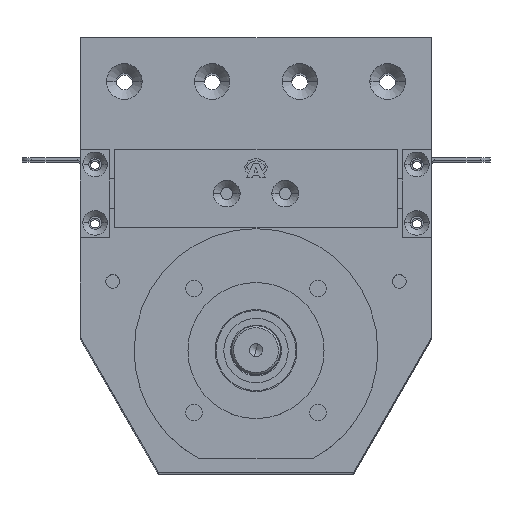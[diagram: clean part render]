
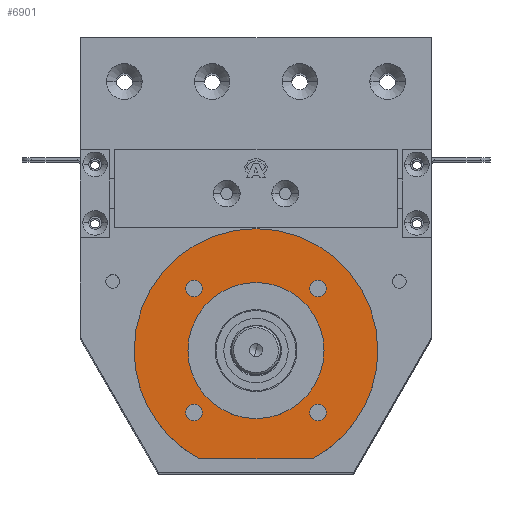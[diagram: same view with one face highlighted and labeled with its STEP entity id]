
A CAD part, top view. The second image highlights one B-rep face of the part: STEP entity #6901.
In plain terms, the highlighted planar face has unit normal (0, 0, 1).
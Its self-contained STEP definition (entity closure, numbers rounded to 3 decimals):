
#23 = DIRECTION ( 'NONE',  ( 0., 0., 1. ) ) ;
#345 = LINE ( 'NONE', #17359, #27157 ) ;
#474 = VERTEX_POINT ( 'NONE', #6062 ) ;
#958 = CARTESIAN_POINT ( 'NONE',  ( -31.82, 30.68, 293.5 ) ) ;
#979 = CIRCLE ( 'NONE', #10503, 4.25 ) ;
#980 = CIRCLE ( 'NONE', #15457, 62.5 ) ;
#1205 = ORIENTED_EDGE ( 'NONE', *, *, #30647, .T. ) ;
#1966 = VERTEX_POINT ( 'NONE', #22270 ) ;
#2015 = ORIENTED_EDGE ( 'NONE', *, *, #9141, .T. ) ;
#2455 = VERTEX_POINT ( 'NONE', #27460 ) ;
#2508 = EDGE_CURVE ( 'NONE', #21343, #27372, #979, .T. ) ;
#2647 = CARTESIAN_POINT ( 'NONE',  ( 36.07, 30.68, 293.5 ) ) ;
#2809 = DIRECTION ( 'NONE',  ( 1., 0., 0. ) ) ;
#2929 = FACE_BOUND ( 'NONE', #6530, .T. ) ;
#2933 = DIRECTION ( 'NONE',  ( 0., 0., 1. ) ) ;
#3045 = CARTESIAN_POINT ( 'NONE',  ( 0., 62.5, 293.5 ) ) ;
#3551 = DIRECTION ( 'NONE',  ( -1., 0., 0. ) ) ;
#3748 = AXIS2_PLACEMENT_3D ( 'NONE', #5235, #5099, #5201 ) ;
#4116 = EDGE_CURVE ( 'NONE', #33236, #25754, #26631, .T. ) ;
#4265 = ORIENTED_EDGE ( 'NONE', *, *, #8864, .T. ) ;
#5099 = DIRECTION ( 'NONE',  ( 0., 0., 1. ) ) ;
#5201 = DIRECTION ( 'NONE',  ( 1., 0., 0. ) ) ;
#5235 = CARTESIAN_POINT ( 'NONE',  ( 0., 62.5, 293.5 ) ) ;
#5465 = VERTEX_POINT ( 'NONE', #10185 ) ;
#6062 = CARTESIAN_POINT ( 'NONE',  ( 27.57, 94.32, 293.5 ) ) ;
#6170 = CARTESIAN_POINT ( 'NONE',  ( -31.82, 30.68, 293.5 ) ) ;
#6283 = EDGE_CURVE ( 'NONE', #25754, #33236, #6574, .T. ) ;
#6530 = EDGE_LOOP ( 'NONE', ( #1205, #28160 ) ) ;
#6574 = CIRCLE ( 'NONE', #6648, 34.9 ) ;
#6648 = AXIS2_PLACEMENT_3D ( 'NONE', #23191, #23157, #23082 ) ;
#6658 = VERTEX_POINT ( 'NONE', #7573 ) ;
#6901 = ADVANCED_FACE ( 'NONE', ( #9873, #29746, #23693, #2929, #22885, #15972 ), #25669, .F. ) ;
#7078 = CARTESIAN_POINT ( 'NONE',  ( 31.82, 30.68, 293.5 ) ) ;
#7490 = CARTESIAN_POINT ( 'NONE',  ( 28.74, 7., 293.5 ) ) ;
#7573 = CARTESIAN_POINT ( 'NONE',  ( 27.57, 30.68, 293.5 ) ) ;
#7595 = AXIS2_PLACEMENT_3D ( 'NONE', #3045, #2933, #2809 ) ;
#8055 = DIRECTION ( 'NONE',  ( -1., 0., 0. ) ) ;
#8173 = DIRECTION ( 'NONE',  ( 0., 0., -1. ) ) ;
#8290 = CARTESIAN_POINT ( 'NONE',  ( 31.82, 94.32, 293.5 ) ) ;
#8555 = EDGE_LOOP ( 'NONE', ( #2015, #4265 ) ) ;
#8676 = VERTEX_POINT ( 'NONE', #8959 ) ;
#8717 = DIRECTION ( 'NONE',  ( 0., 0., -1. ) ) ;
#8804 = DIRECTION ( 'NONE',  ( -1., 0., 0. ) ) ;
#8864 = EDGE_CURVE ( 'NONE', #2455, #474, #27985, .T. ) ;
#8959 = CARTESIAN_POINT ( 'NONE',  ( -27.57, 30.68, 293.5 ) ) ;
#9127 = EDGE_CURVE ( 'NONE', #25789, #5465, #32010, .T. ) ;
#9141 = EDGE_CURVE ( 'NONE', #474, #2455, #10511, .T. ) ;
#9223 = ORIENTED_EDGE ( 'NONE', *, *, #22154, .T. ) ;
#9706 = DIRECTION ( 'NONE',  ( -1., 0., 0. ) ) ;
#9873 = FACE_BOUND ( 'NONE', #25435, .T. ) ;
#10185 = CARTESIAN_POINT ( 'NONE',  ( 62.5, 62.5, 293.5 ) ) ;
#10234 = DIRECTION ( 'NONE',  ( 0., 0., -1. ) ) ;
#10431 = EDGE_CURVE ( 'NONE', #25789, #30893, #345, .T. ) ;
#10503 = AXIS2_PLACEMENT_3D ( 'NONE', #26626, #26557, #26584 ) ;
#10511 = CIRCLE ( 'NONE', #19787, 4.25 ) ;
#10600 = ORIENTED_EDGE ( 'NONE', *, *, #23085, .T. ) ;
#10927 = DIRECTION ( 'NONE',  ( 0., 0., -1. ) ) ;
#11771 = EDGE_CURVE ( 'NONE', #1966, #30893, #31970, .T. ) ;
#12031 = AXIS2_PLACEMENT_3D ( 'NONE', #7078, #25260, #9706 ) ;
#12049 = DIRECTION ( 'NONE',  ( 1., 0., 0. ) ) ;
#12078 = DIRECTION ( 'NONE',  ( 0., 0., 1. ) ) ;
#12089 = CARTESIAN_POINT ( 'NONE',  ( 0., 62.5, 293.5 ) ) ;
#12120 = CIRCLE ( 'NONE', #12031, 4.25 ) ;
#12482 = VERTEX_POINT ( 'NONE', #2647 ) ;
#12937 = AXIS2_PLACEMENT_3D ( 'NONE', #24292, #8717, #26861 ) ;
#13712 = EDGE_CURVE ( 'NONE', #5465, #1966, #980, .T. ) ;
#14576 = ORIENTED_EDGE ( 'NONE', *, *, #4116, .F. ) ;
#14833 = CARTESIAN_POINT ( 'NONE',  ( -36.07, 94.32, 293.5 ) ) ;
#15280 = CARTESIAN_POINT ( 'NONE',  ( 31.82, 94.32, 293.5 ) ) ;
#15457 = AXIS2_PLACEMENT_3D ( 'NONE', #12089, #12078, #12049 ) ;
#15972 = FACE_OUTER_BOUND ( 'NONE', #19357, .T. ) ;
#16431 = EDGE_LOOP ( 'NONE', ( #10600, #9223 ) ) ;
#17200 = DIRECTION ( 'NONE',  ( -1., 0., 0. ) ) ;
#17359 = CARTESIAN_POINT ( 'NONE',  ( 28.74, 7., 293.5 ) ) ;
#19039 = CARTESIAN_POINT ( 'NONE',  ( -27.57, 94.32, 293.5 ) ) ;
#19119 = DIRECTION ( 'NONE',  ( 0., 0., -1. ) ) ;
#19138 = ORIENTED_EDGE ( 'NONE', *, *, #6283, .F. ) ;
#19357 = EDGE_LOOP ( 'NONE', ( #19615, #33311, #30892, #31866 ) ) ;
#19615 = ORIENTED_EDGE ( 'NONE', *, *, #9127, .T. ) ;
#19787 = AXIS2_PLACEMENT_3D ( 'NONE', #15280, #10234, #33456 ) ;
#20595 = AXIS2_PLACEMENT_3D ( 'NONE', #33398, #23, #32973 ) ;
#20640 = CIRCLE ( 'NONE', #25975, 4.25 ) ;
#21343 = VERTEX_POINT ( 'NONE', #19039 ) ;
#21506 = CIRCLE ( 'NONE', #32470, 4.25 ) ;
#22082 = AXIS2_PLACEMENT_3D ( 'NONE', #958, #19119, #3551 ) ;
#22154 = EDGE_CURVE ( 'NONE', #12482, #6658, #12120, .T. ) ;
#22270 = CARTESIAN_POINT ( 'NONE',  ( -62.5, 62.5, 293.5 ) ) ;
#22393 = CARTESIAN_POINT ( 'NONE',  ( 34.9, 62.5, 293.5 ) ) ;
#22885 = FACE_BOUND ( 'NONE', #31655, .T. ) ;
#23082 = DIRECTION ( 'NONE',  ( 1., 0., 0. ) ) ;
#23085 = EDGE_CURVE ( 'NONE', #6658, #12482, #30302, .T. ) ;
#23157 = DIRECTION ( 'NONE',  ( 0., 0., 1. ) ) ;
#23191 = CARTESIAN_POINT ( 'NONE',  ( 0., 62.5, 293.5 ) ) ;
#23535 = EDGE_CURVE ( 'NONE', #32950, #8676, #31086, .T. ) ;
#23693 = FACE_BOUND ( 'NONE', #8555, .T. ) ;
#23754 = DIRECTION ( 'NONE',  ( -1., 0., 0. ) ) ;
#23938 = AXIS2_PLACEMENT_3D ( 'NONE', #8290, #8173, #8055 ) ;
#24292 = CARTESIAN_POINT ( 'NONE',  ( 31.82, 30.68, 293.5 ) ) ;
#24376 = DIRECTION ( 'NONE',  ( 0., 0., -1. ) ) ;
#25004 = CARTESIAN_POINT ( 'NONE',  ( -28.74, 7., 293.5 ) ) ;
#25260 = DIRECTION ( 'NONE',  ( 0., 0., -1. ) ) ;
#25303 = DIRECTION ( 'NONE',  ( 0., 0., -1. ) ) ;
#25435 = EDGE_LOOP ( 'NONE', ( #28545, #30747 ) ) ;
#25669 = PLANE ( 'NONE',  #27971 ) ;
#25754 = VERTEX_POINT ( 'NONE', #28145 ) ;
#25789 = VERTEX_POINT ( 'NONE', #7490 ) ;
#25975 = AXIS2_PLACEMENT_3D ( 'NONE', #26468, #10927, #29067 ) ;
#26468 = CARTESIAN_POINT ( 'NONE',  ( -31.82, 94.32, 293.5 ) ) ;
#26557 = DIRECTION ( 'NONE',  ( 0., 0., -1. ) ) ;
#26584 = DIRECTION ( 'NONE',  ( -1., 0., 0. ) ) ;
#26626 = CARTESIAN_POINT ( 'NONE',  ( -31.82, 94.32, 293.5 ) ) ;
#26631 = CIRCLE ( 'NONE', #3748, 34.9 ) ;
#26861 = DIRECTION ( 'NONE',  ( -1., 0., 0. ) ) ;
#26889 = CARTESIAN_POINT ( 'NONE',  ( 0., 125., 293.5 ) ) ;
#27157 = VECTOR ( 'NONE', #17200, 1000. ) ;
#27372 = VERTEX_POINT ( 'NONE', #14833 ) ;
#27460 = CARTESIAN_POINT ( 'NONE',  ( 36.07, 94.32, 293.5 ) ) ;
#27971 = AXIS2_PLACEMENT_3D ( 'NONE', #26889, #25303, #23754 ) ;
#27985 = CIRCLE ( 'NONE', #23938, 4.25 ) ;
#28145 = CARTESIAN_POINT ( 'NONE',  ( -34.9, 62.5, 293.5 ) ) ;
#28160 = ORIENTED_EDGE ( 'NONE', *, *, #2508, .T. ) ;
#28545 = ORIENTED_EDGE ( 'NONE', *, *, #23535, .T. ) ;
#28730 = CARTESIAN_POINT ( 'NONE',  ( -36.07, 30.68, 293.5 ) ) ;
#29067 = DIRECTION ( 'NONE',  ( -1., 0., 0. ) ) ;
#29746 = FACE_BOUND ( 'NONE', #16431, .T. ) ;
#30167 = EDGE_CURVE ( 'NONE', #8676, #32950, #21506, .T. ) ;
#30302 = CIRCLE ( 'NONE', #12937, 4.25 ) ;
#30647 = EDGE_CURVE ( 'NONE', #27372, #21343, #20640, .T. ) ;
#30747 = ORIENTED_EDGE ( 'NONE', *, *, #30167, .T. ) ;
#30892 = ORIENTED_EDGE ( 'NONE', *, *, #11771, .T. ) ;
#30893 = VERTEX_POINT ( 'NONE', #25004 ) ;
#31086 = CIRCLE ( 'NONE', #22082, 4.25 ) ;
#31655 = EDGE_LOOP ( 'NONE', ( #14576, #19138 ) ) ;
#31866 = ORIENTED_EDGE ( 'NONE', *, *, #10431, .F. ) ;
#31970 = CIRCLE ( 'NONE', #20595, 62.5 ) ;
#32010 = CIRCLE ( 'NONE', #7595, 62.5 ) ;
#32470 = AXIS2_PLACEMENT_3D ( 'NONE', #6170, #24376, #8804 ) ;
#32950 = VERTEX_POINT ( 'NONE', #28730 ) ;
#32973 = DIRECTION ( 'NONE',  ( 1., 0., 0. ) ) ;
#33236 = VERTEX_POINT ( 'NONE', #22393 ) ;
#33311 = ORIENTED_EDGE ( 'NONE', *, *, #13712, .T. ) ;
#33398 = CARTESIAN_POINT ( 'NONE',  ( 0., 62.5, 293.5 ) ) ;
#33456 = DIRECTION ( 'NONE',  ( -1., 0., 0. ) ) ;
